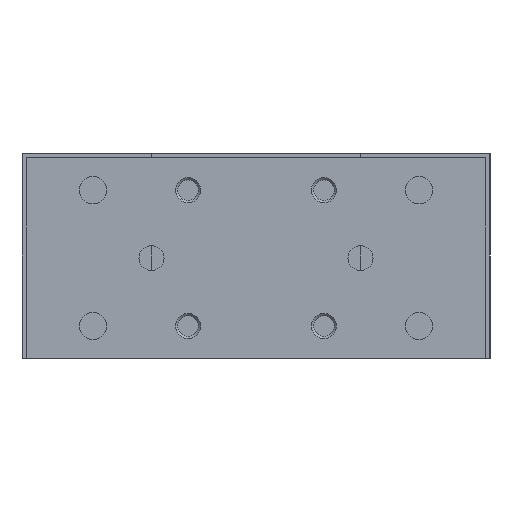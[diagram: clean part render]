
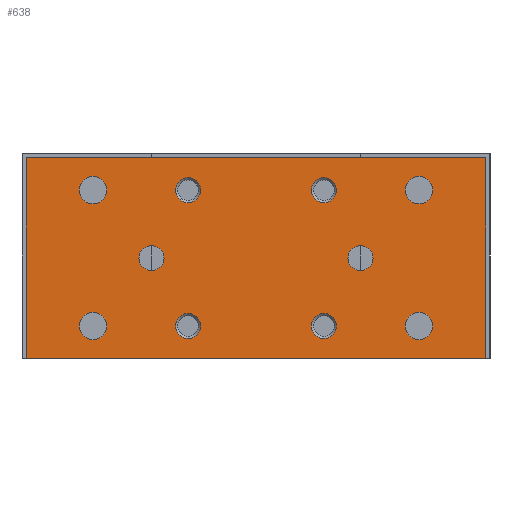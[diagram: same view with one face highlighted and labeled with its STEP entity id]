
A CAD part, left-side view. The second image highlights one B-rep face of the part: STEP entity #638.
In plain terms, the highlighted planar face has unit normal (-1, 0, 0).
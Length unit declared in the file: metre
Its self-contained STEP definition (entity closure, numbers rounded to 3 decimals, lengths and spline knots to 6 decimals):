
#638 = ADVANCED_FACE( '', ( #1496, #1497, #1498, #1499, #1500, #1501, #1502, #1503, #1504, #1505, #1506 ), #1507, .F. );
#1496 = FACE_BOUND( '', #2564, .T. );
#1497 = FACE_BOUND( '', #2565, .T. );
#1498 = FACE_BOUND( '', #2566, .T. );
#1499 = FACE_BOUND( '', #2567, .T. );
#1500 = FACE_BOUND( '', #2568, .T. );
#1501 = FACE_BOUND( '', #2569, .T. );
#1502 = FACE_BOUND( '', #2570, .T. );
#1503 = FACE_BOUND( '', #2571, .T. );
#1504 = FACE_BOUND( '', #2572, .T. );
#1505 = FACE_BOUND( '', #2573, .T. );
#1506 = FACE_OUTER_BOUND( '', #2574, .T. );
#1507 = PLANE( '', #2575 );
#2564 = EDGE_LOOP( '', ( #4139 ) );
#2565 = EDGE_LOOP( '', ( #4140 ) );
#2566 = EDGE_LOOP( '', ( #4141 ) );
#2567 = EDGE_LOOP( '', ( #4142 ) );
#2568 = EDGE_LOOP( '', ( #4143 ) );
#2569 = EDGE_LOOP( '', ( #4144 ) );
#2570 = EDGE_LOOP( '', ( #4145 ) );
#2571 = EDGE_LOOP( '', ( #4146 ) );
#2572 = EDGE_LOOP( '', ( #4147 ) );
#2573 = EDGE_LOOP( '', ( #4148 ) );
#2574 = EDGE_LOOP( '', ( #4149, #4150, #4151, #4152 ) );
#2575 = AXIS2_PLACEMENT_3D( '', #4153, #4154, #4155 );
#4139 = ORIENTED_EDGE( '', *, *, #4873, .T. );
#4140 = ORIENTED_EDGE( '', *, *, #5349, .T. );
#4141 = ORIENTED_EDGE( '', *, *, #4897, .T. );
#4142 = ORIENTED_EDGE( '', *, *, #5350, .T. );
#4143 = ORIENTED_EDGE( '', *, *, #5351, .F. );
#4144 = ORIENTED_EDGE( '', *, *, #5316, .T. );
#4145 = ORIENTED_EDGE( '', *, *, #4983, .T. );
#4146 = ORIENTED_EDGE( '', *, *, #5030, .F. );
#4147 = ORIENTED_EDGE( '', *, *, #4967, .F. );
#4148 = ORIENTED_EDGE( '', *, *, #5352, .T. );
#4149 = ORIENTED_EDGE( '', *, *, #5228, .T. );
#4150 = ORIENTED_EDGE( '', *, *, #4906, .T. );
#4151 = ORIENTED_EDGE( '', *, *, #5002, .T. );
#4152 = ORIENTED_EDGE( '', *, *, #5169, .T. );
#4153 = CARTESIAN_POINT( '', ( -0.07925, -0.055, -0.049 ) );
#4154 = DIRECTION( '', ( 1., 0., 0. ) );
#4155 = DIRECTION( '', ( 0., 1., 0. ) );
#4873 = EDGE_CURVE( '', #5560, #5560, #5561, .T. );
#4897 = EDGE_CURVE( '', #5599, #5599, #5600, .T. );
#4906 = EDGE_CURVE( '', #5613, #5611, #5614, .T. );
#4967 = EDGE_CURVE( '', #5713, #5713, #5714, .T. );
#4983 = EDGE_CURVE( '', #5737, #5737, #5738, .T. );
#5002 = EDGE_CURVE( '', #5611, #5764, #5766, .T. );
#5030 = EDGE_CURVE( '', #5808, #5808, #5809, .T. );
#5169 = EDGE_CURVE( '', #5764, #6028, #6030, .T. );
#5228 = EDGE_CURVE( '', #6028, #5613, #6117, .T. );
#5316 = EDGE_CURVE( '', #6249, #6249, #6250, .T. );
#5349 = EDGE_CURVE( '', #6290, #6290, #6291, .T. );
#5350 = EDGE_CURVE( '', #6292, #6292, #6293, .T. );
#5351 = EDGE_CURVE( '', #6294, #6294, #6295, .T. );
#5352 = EDGE_CURVE( '', #6296, #6296, #6297, .T. );
#5560 = VERTEX_POINT( '', #6545 );
#5561 = CIRCLE( '', #6546, 0.0033 );
#5599 = VERTEX_POINT( '', #6592 );
#5600 = CIRCLE( '', #6593, 0.0033 );
#5611 = VERTEX_POINT( '', #6605 );
#5613 = VERTEX_POINT( '', #6608 );
#5614 = LINE( '', #6609, #6610 );
#5713 = VERTEX_POINT( '', #6726 );
#5714 = CIRCLE( '', #6727, 0.003 );
#5737 = VERTEX_POINT( '', #6753 );
#5738 = CIRCLE( '', #6754, 0.003 );
#5764 = VERTEX_POINT( '', #6781 );
#5766 = LINE( '', #6784, #6785 );
#5808 = VERTEX_POINT( '', #6834 );
#5809 = CIRCLE( '', #6835, 0.003 );
#6028 = VERTEX_POINT( '', #7161 );
#6030 = LINE( '', #7164, #7165 );
#6117 = LINE( '', #7296, #7297 );
#6249 = VERTEX_POINT( '', #7495 );
#6250 = CIRCLE( '', #7496, 0.003 );
#6290 = VERTEX_POINT( '', #7548 );
#6291 = CIRCLE( '', #7549, 0.0033 );
#6292 = VERTEX_POINT( '', #7550 );
#6293 = CIRCLE( '', #7551, 0.0033 );
#6294 = VERTEX_POINT( '', #7552 );
#6295 = CIRCLE( '', #7553, 0.003 );
#6296 = VERTEX_POINT( '', #7554 );
#6297 = CIRCLE( '', #7555, 0.003 );
#6545 = CARTESIAN_POINT( '', ( -0.07925, -0.0357, -0.04125 ) );
#6546 = AXIS2_PLACEMENT_3D( '', #7885, #7886, #7887 );
#6592 = CARTESIAN_POINT( '', ( -0.07925, -0.0357, -0.00875 ) );
#6593 = AXIS2_PLACEMENT_3D( '', #7917, #7918, #7919 );
#6605 = CARTESIAN_POINT( '', ( -0.07925, 0.055, -0.001 ) );
#6608 = CARTESIAN_POINT( '', ( -0.07925, -0.055, -0.001 ) );
#6609 = CARTESIAN_POINT( '', ( -0.07925, -0.055, -0.001 ) );
#6610 = VECTOR( '', #7928, 1. );
#6726 = CARTESIAN_POINT( '', ( -0.07925, -0.01325, -0.00875 ) );
#6727 = AXIS2_PLACEMENT_3D( '', #8021, #8022, #8023 );
#6753 = CARTESIAN_POINT( '', ( -0.07925, -0.01325, -0.04125 ) );
#6754 = AXIS2_PLACEMENT_3D( '', #8045, #8046, #8047 );
#6781 = CARTESIAN_POINT( '', ( -0.07925, 0.055, -0.049 ) );
#6784 = CARTESIAN_POINT( '', ( -0.07925, 0.055, -0.001 ) );
#6785 = VECTOR( '', #8074, 1. );
#6834 = CARTESIAN_POINT( '', ( -0.07925, 0.01325, -0.04125 ) );
#6835 = AXIS2_PLACEMENT_3D( '', #8112, #8113, #8114 );
#7161 = CARTESIAN_POINT( '', ( -0.07925, -0.055, -0.049 ) );
#7164 = CARTESIAN_POINT( '', ( -0.07925, 0.055, -0.049 ) );
#7165 = VECTOR( '', #8313, 1. );
#7296 = CARTESIAN_POINT( '', ( -0.07925, -0.055, -0.049 ) );
#7297 = VECTOR( '', #8391, 1. );
#7495 = CARTESIAN_POINT( '', ( -0.07925, 0.025, -0.022 ) );
#7496 = AXIS2_PLACEMENT_3D( '', #8485, #8486, #8487 );
#7548 = CARTESIAN_POINT( '', ( -0.07925, 0.0423, -0.04125 ) );
#7549 = AXIS2_PLACEMENT_3D( '', #8512, #8513, #8514 );
#7550 = CARTESIAN_POINT( '', ( -0.07925, 0.0423, -0.00875 ) );
#7551 = AXIS2_PLACEMENT_3D( '', #8515, #8516, #8517 );
#7552 = CARTESIAN_POINT( '', ( -0.07925, -0.025, -0.022 ) );
#7553 = AXIS2_PLACEMENT_3D( '', #8518, #8519, #8520 );
#7554 = CARTESIAN_POINT( '', ( -0.07925, 0.01325, -0.00875 ) );
#7555 = AXIS2_PLACEMENT_3D( '', #8521, #8522, #8523 );
#7885 = CARTESIAN_POINT( '', ( -0.07925, -0.039, -0.04125 ) );
#7886 = DIRECTION( '', ( 1., 0., 0. ) );
#7887 = DIRECTION( '', ( 0., 1., 0. ) );
#7917 = CARTESIAN_POINT( '', ( -0.07925, -0.039, -0.00875 ) );
#7918 = DIRECTION( '', ( 1., 0., 0. ) );
#7919 = DIRECTION( '', ( 0., 1., 0. ) );
#7928 = DIRECTION( '', ( 0., 1., 0. ) );
#8021 = CARTESIAN_POINT( '', ( -0.07925, -0.01625, -0.00875 ) );
#8022 = DIRECTION( '', ( -1., 0., 0. ) );
#8023 = DIRECTION( '', ( 0., 1., 0. ) );
#8045 = CARTESIAN_POINT( '', ( -0.07925, -0.01625, -0.04125 ) );
#8046 = DIRECTION( '', ( 1., 0., 0. ) );
#8047 = DIRECTION( '', ( 0., 1., 0. ) );
#8074 = DIRECTION( '', ( 0., 0., -1. ) );
#8112 = CARTESIAN_POINT( '', ( -0.07925, 0.01625, -0.04125 ) );
#8113 = DIRECTION( '', ( -1., 0., 0. ) );
#8114 = DIRECTION( '', ( 0., -1., 0. ) );
#8313 = DIRECTION( '', ( 0., -1., 0. ) );
#8391 = DIRECTION( '', ( 0., 0., 1. ) );
#8485 = CARTESIAN_POINT( '', ( -0.07925, 0.025, -0.025 ) );
#8486 = DIRECTION( '', ( 1., 0., 0. ) );
#8487 = DIRECTION( '', ( 0., 0., 1. ) );
#8512 = CARTESIAN_POINT( '', ( -0.07925, 0.039, -0.04125 ) );
#8513 = DIRECTION( '', ( 1., 0., 0. ) );
#8514 = DIRECTION( '', ( 0., 1., 0. ) );
#8515 = CARTESIAN_POINT( '', ( -0.07925, 0.039, -0.00875 ) );
#8516 = DIRECTION( '', ( 1., 0., 0. ) );
#8517 = DIRECTION( '', ( 0., 1., 0. ) );
#8518 = CARTESIAN_POINT( '', ( -0.07925, -0.025, -0.025 ) );
#8519 = DIRECTION( '', ( -1., 0., 0. ) );
#8520 = DIRECTION( '', ( 0., 0., 1. ) );
#8521 = CARTESIAN_POINT( '', ( -0.07925, 0.01625, -0.00875 ) );
#8522 = DIRECTION( '', ( 1., 0., 0. ) );
#8523 = DIRECTION( '', ( 0., -1., 0. ) );
